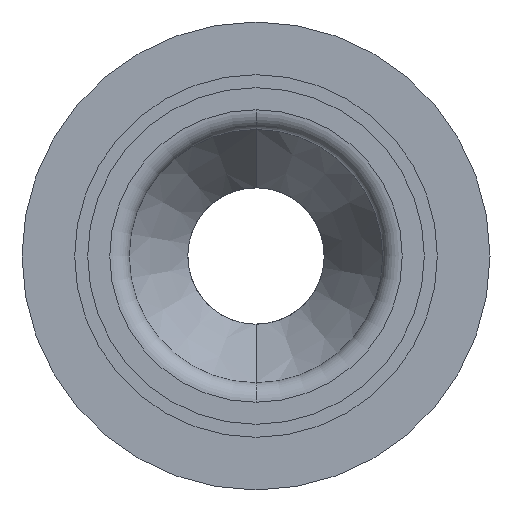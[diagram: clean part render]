
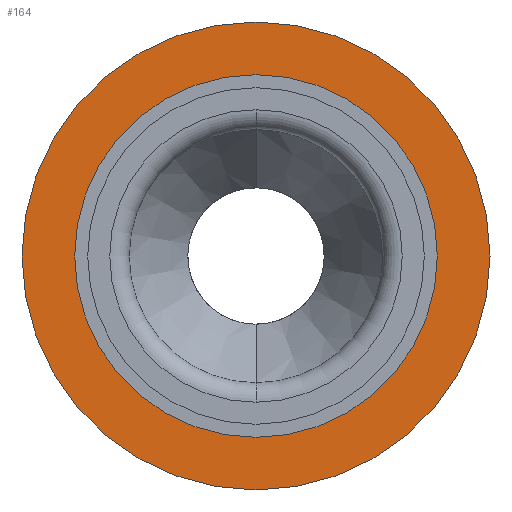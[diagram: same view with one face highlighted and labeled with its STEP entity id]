
A CAD part, front view. The second image highlights one B-rep face of the part: STEP entity #164.
In plain terms, the highlighted planar face has unit normal (0, -1, 0).
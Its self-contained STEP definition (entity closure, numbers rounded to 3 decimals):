
#29 = EDGE_CURVE ( 'NONE', #3451, #3479, #3668, .T. ) ;
#162 = AXIS2_PLACEMENT_3D ( 'NONE', #2358, #3346, #5377 ) ;
#164 = ADVANCED_FACE ( 'NONE', ( #4319, #3993 ), #2653, .T. ) ;
#455 = DIRECTION ( 'NONE',  ( 0., -1., 0. ) ) ;
#801 = CARTESIAN_POINT ( 'NONE',  ( -369.933, -8708.459, 0. ) ) ;
#826 = DIRECTION ( 'NONE',  ( 0., 0., -1. ) ) ;
#942 = CIRCLE ( 'NONE', #3942, 8.6 ) ;
#986 = EDGE_CURVE ( 'NONE', #5773, #1276, #3834, .T. ) ;
#1068 = ORIENTED_EDGE ( 'NONE', *, *, #986, .T. ) ;
#1276 = VERTEX_POINT ( 'NONE', #4293 ) ;
#1310 = AXIS2_PLACEMENT_3D ( 'NONE', #4118, #3123, #3635 ) ;
#1348 = DIRECTION ( 'NONE',  ( 0., -1., 0. ) ) ;
#1478 = CARTESIAN_POINT ( 'NONE',  ( -369.933, -8708.459, 0. ) ) ;
#1526 = CARTESIAN_POINT ( 'NONE',  ( -369.933, -8708.459, 0. ) ) ;
#1812 = EDGE_LOOP ( 'NONE', ( #2588, #1068 ) ) ;
#1860 = CARTESIAN_POINT ( 'NONE',  ( -369.933, -8708.459, -8.6 ) ) ;
#2358 = CARTESIAN_POINT ( 'NONE',  ( -369.933, -8708.459, 0. ) ) ;
#2588 = ORIENTED_EDGE ( 'NONE', *, *, #5453, .T. ) ;
#2653 = PLANE ( 'NONE',  #1310 ) ;
#2855 = CARTESIAN_POINT ( 'NONE',  ( -369.933, -8708.459, 12. ) ) ;
#3048 = DIRECTION ( 'NONE',  ( 0., 0., -1. ) ) ;
#3123 = DIRECTION ( 'NONE',  ( 0., -1., 0. ) ) ;
#3346 = DIRECTION ( 'NONE',  ( 0., -1., 0. ) ) ;
#3451 = VERTEX_POINT ( 'NONE', #4422 ) ;
#3479 = VERTEX_POINT ( 'NONE', #1860 ) ;
#3635 = DIRECTION ( 'NONE',  ( 0., 0., -1. ) ) ;
#3668 = CIRCLE ( 'NONE', #162, 8.6 ) ;
#3834 = CIRCLE ( 'NONE', #4859, 12. ) ;
#3942 = AXIS2_PLACEMENT_3D ( 'NONE', #801, #1348, #826 ) ;
#3993 = FACE_OUTER_BOUND ( 'NONE', #1812, .T. ) ;
#3998 = DIRECTION ( 'NONE',  ( 0., 0., -1. ) ) ;
#4018 = AXIS2_PLACEMENT_3D ( 'NONE', #1526, #4522, #3048 ) ;
#4118 = CARTESIAN_POINT ( 'NONE',  ( 0., -8708.459, 0. ) ) ;
#4137 = ORIENTED_EDGE ( 'NONE', *, *, #4194, .F. ) ;
#4194 = EDGE_CURVE ( 'NONE', #3479, #3451, #942, .T. ) ;
#4293 = CARTESIAN_POINT ( 'NONE',  ( -369.933, -8708.459, -12. ) ) ;
#4310 = EDGE_LOOP ( 'NONE', ( #4137, #6151 ) ) ;
#4319 = FACE_BOUND ( 'NONE', #4310, .T. ) ;
#4422 = CARTESIAN_POINT ( 'NONE',  ( -369.933, -8708.459, 8.6 ) ) ;
#4522 = DIRECTION ( 'NONE',  ( 0., -1., 0. ) ) ;
#4859 = AXIS2_PLACEMENT_3D ( 'NONE', #1478, #455, #3998 ) ;
#5377 = DIRECTION ( 'NONE',  ( 0., 0., -1. ) ) ;
#5446 = CIRCLE ( 'NONE', #4018, 12. ) ;
#5453 = EDGE_CURVE ( 'NONE', #1276, #5773, #5446, .T. ) ;
#5773 = VERTEX_POINT ( 'NONE', #2855 ) ;
#6151 = ORIENTED_EDGE ( 'NONE', *, *, #29, .F. ) ;
